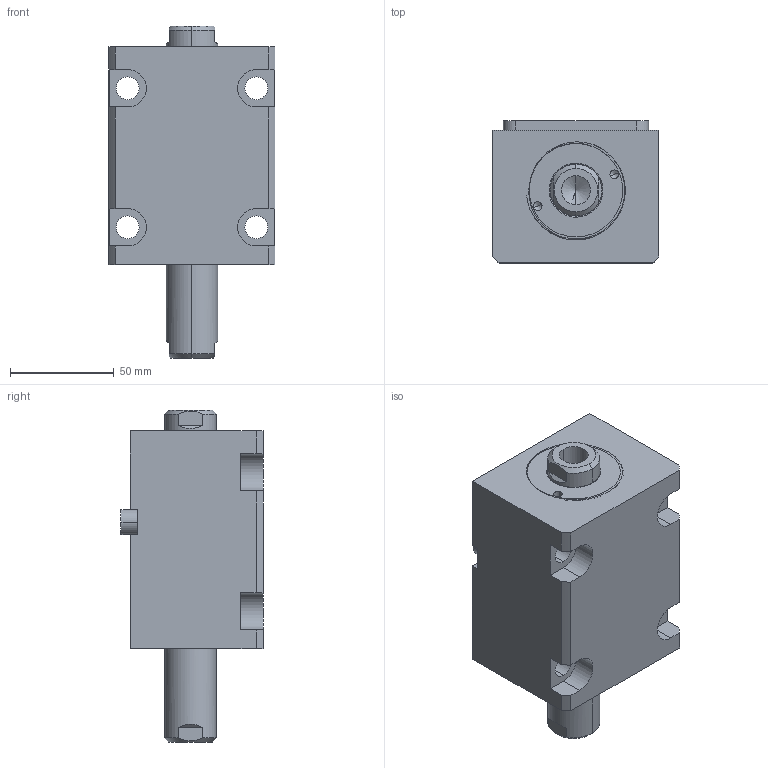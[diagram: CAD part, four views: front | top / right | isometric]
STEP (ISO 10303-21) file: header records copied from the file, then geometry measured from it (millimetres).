
FILE_DESCRIPTION (( 'STEP AP214' ), '1' );
FILE_NAME ('chtb-lwm40x35n_asm.STEP', '2018-05-30T08:03:00', ( 'Windows' ), ( 'Microsoft' ), 'SwSTEP 2.0', 'SolidWorks 2015', '' );
FILE_SCHEMA (( 'AUTOMOTIVE_DESIGN' ));
Length unit declared in the file: millimetre
Products named in the file (5): chtb-lwm40x35n_asm; CHTB-SD40QG; CHTB-LA40PJ; CHTB-SW40X35NHSG; CHTB-LWM40X35NBT
Assembly tree (4 placements, depth 2):
  chtb-lwm40x35n_asm
    CHTB-LWM40X35NBT
    CHTB-SW40X35NHSG
    CHTB-LA40PJ
    CHTB-SD40QG
Bounding box: 80 x 68.5 x 160 mm (x, y, z)
Volume: 496710.4 mm3; surface area: 91518.4 mm2
Topology: 4 solids, 4 shells, 166 faces, 450 edges, 296 vertices
Faces by surface type: cylinder 77, plane 50, bspline 14, cone 13, torus 12
Entity records: 10488 total; most frequent: CARTESIAN_POINT 6156, ORIENTED_EDGE 880, DIRECTION 821, EDGE_CURVE 440, AXIS2_PLACEMENT_3D 326, VERTEX_POINT 296, EDGE_LOOP 196, VECTOR 169
